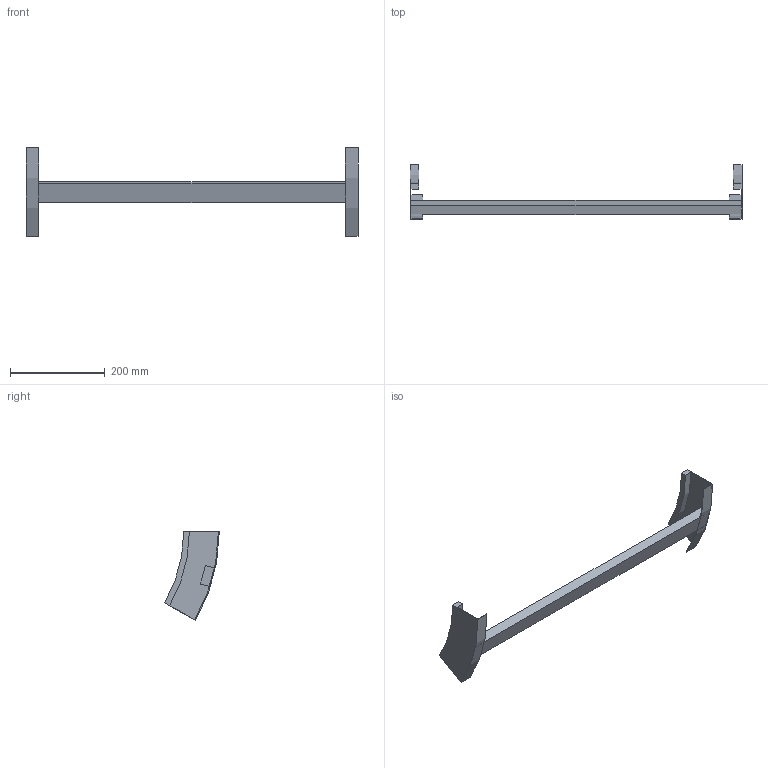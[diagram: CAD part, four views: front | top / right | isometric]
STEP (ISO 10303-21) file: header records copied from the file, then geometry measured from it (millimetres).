
FILE_DESCRIPTION (( 'STEP AP214' ), '1' );
FILE_NAME ('B2X32B3C700XX.step', '2025-03-20T10:03:01', ( '' ), ( '' ), 'SwSTEP 2.0', 'SolidWorks 2023', '' );
FILE_SCHEMA (( 'AUTOMOTIVE_DESIGN' ));
Length unit declared in the file: millimetre
Products named in the file (3): B2X32B3C700XX; B2_LONGH.SALITA_30°_H75_R300; TRAVERSINO_700
Assembly tree (3 placements, depth 2):
  B2X32B3C700XX
    B2_LONGH.SALITA_30°_H75_R300  x2
    TRAVERSINO_700
Bounding box: 700 x 115.19 x 187.5 mm (x, y, z)
Volume: 697881.9 mm3; surface area: 171668.8 mm2
Topology: 3 solids, 3 shells, 26 faces, 60 edges, 40 vertices
Faces by surface type: plane 18, cylinder 8
Entity records: 544 total; most frequent: DIRECTION 88, CARTESIAN_POINT 82, ORIENTED_EDGE 72, EDGE_CURVE 36, AXIS2_PLACEMENT_3D 30, LINE 28, VECTOR 28, VERTEX_POINT 24
